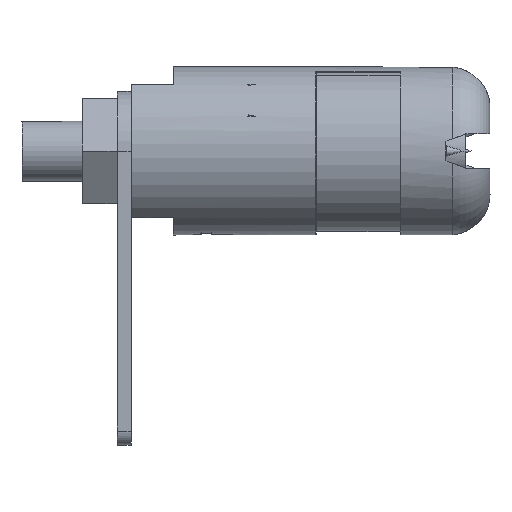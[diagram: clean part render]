
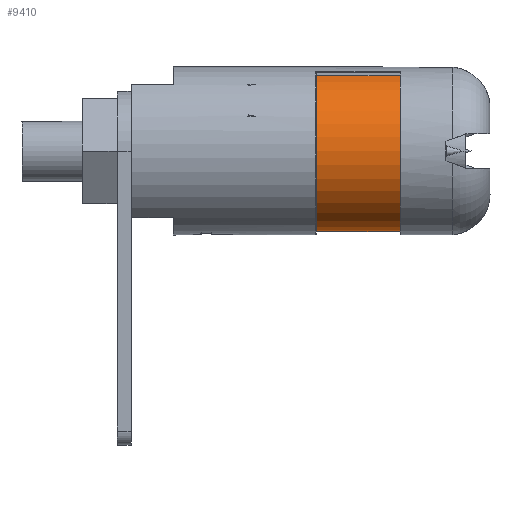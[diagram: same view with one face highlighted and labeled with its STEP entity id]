
A CAD part, left-side view. The second image highlights one B-rep face of the part: STEP entity #9410.
In plain terms, the highlighted cylindrical face has radius 11.5 mm (diameter 23 mm), a partial arc.
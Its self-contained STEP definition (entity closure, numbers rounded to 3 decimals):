
#9410=ADVANCED_FACE('', (#9420), #9430, .T.);
#33920=AXIS2_PLACEMENT_3D('Ax2Pl3d', #33930, #33940, #33950);
#33960=AXIS2_PLACEMENT_3D('Ax2Pl3d', #33970, #33980, #33990);
#34000=AXIS2_PLACEMENT_3D('Ax2Pl3d', #34010, #34020, #34030);
#124280=CARTESIAN_POINT('', (-295.083,1775.174,-544.334)
);
#124300=CARTESIAN_POINT('', (-295.083,1775.174,-544.334)
);
#124310=CARTESIAN_POINT('', (-295.083,1763.174,
-544.333));
#33930=CARTESIAN_POINT('HicPkt', (-291.082,1763.174,
-555.115));
#124340=CARTESIAN_POINT('', (-287.083,1763.174,-544.333)
);
#33970=CARTESIAN_POINT('HicPkt', (-291.082,1763.174,
-555.115));
#34010=CARTESIAN_POINT('HicPkt', (-291.082,1775.174,
-555.116));
#124360=CARTESIAN_POINT('', (-287.083,1775.174,
-544.333));
#124370=CARTESIAN_POINT('', (-287.083,1763.174,-544.333)
);
#127550=CIRCLE('Circle', #33920, 11.5);
#127560=CIRCLE('Circle', #34000, 11.5);
#9430=CYLINDRICAL_SURFACE('Zyl', #33960, 11.5);
#151170=DIRECTION('', (0.,1.,
0.));
#33940=DIRECTION('Axis', (0.,1.,
0.));
#33950=DIRECTION('RefDirection', (0.,
0.,-1.));
#33980=DIRECTION('Axis', (0.,1.,
0.));
#33990=DIRECTION('RefDirection', (0.,
0.,-1.));
#34020=DIRECTION('Axis', (0.,1.,
0.));
#34030=DIRECTION('RefDirection', (0.,
0.,-1.));
#151200=DIRECTION('', (0.,-1.,
0.));
#169590=EDGE_CURVE('', #169600, #169560, #169610, .T.);
#169680=EDGE_CURVE('', #169690, #169600, #127550, .T.);
#169720=EDGE_CURVE('', #169730, #169560, #127560, .T.);
#169740=EDGE_CURVE('', #169730, #169690, #169750, .T.);
#190040=EDGE_LOOP('Edge_loop', (#190050,#190060,#190070,#190080));
#9420=FACE_OUTER_BOUND('Face_outer_bound', #190040, .T.);
#169610=LINE('Line', #124300, #197210);
#169750=LINE('Line', #124370, #197240);
#190050=ORIENTED_EDGE('', *, *, #169680, .T.);
#190060=ORIENTED_EDGE('', *, *, #169590, .T.);
#190070=ORIENTED_EDGE('', *, *, #169720, .F.);
#190080=ORIENTED_EDGE('', *, *, #169740, .T.);
#197210=VECTOR('', #151170, 12.);
#197240=VECTOR('', #151200, 12.);
#169560=VERTEX_POINT('', #124280);
#169600=VERTEX_POINT('', #124310);
#169690=VERTEX_POINT('', #124340);
#169730=VERTEX_POINT('', #124360);
